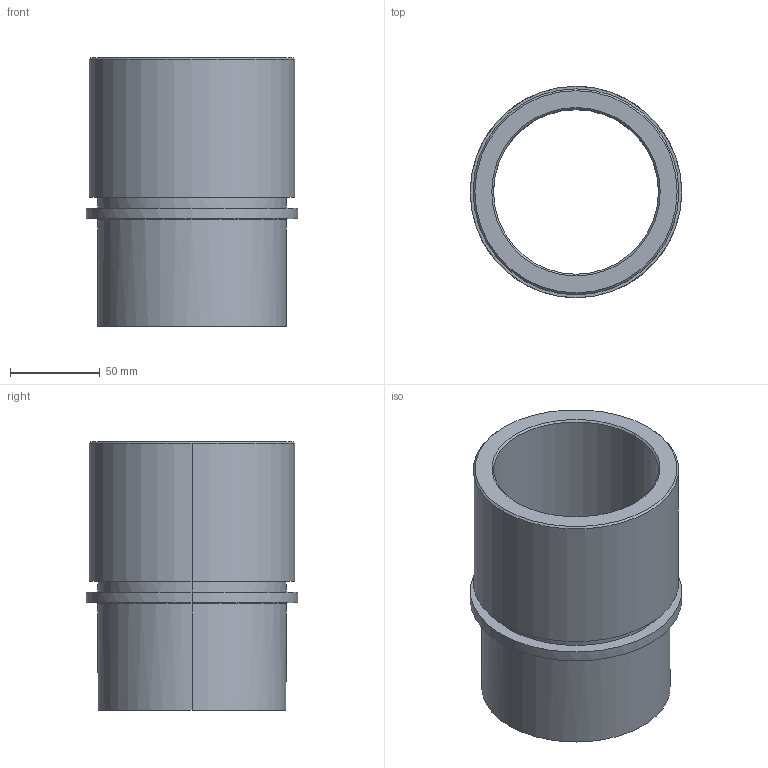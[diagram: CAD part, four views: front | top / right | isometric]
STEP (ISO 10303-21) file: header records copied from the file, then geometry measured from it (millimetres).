
FILE_DESCRIPTION(('CATIA V5 STEP Exchange'),'2;1');
FILE_NAME('C:\Users\Utente\Desktop\IO LAVORO\3D X SITO CF\X SITO\733\733-80.stp','2021-01-11T17:27:05+00:00',('none'),('none'),'CATIA Version 5 Release 20 GA (IN-10)','CATIA V5 STEP AP203','none');
FILE_SCHEMA(('CONFIG_CONTROL_DESIGN'));
Length unit declared in the file: millimetre
Products named in the file (1): 733-80
Assembly tree (1 placements, depth 2):
  733-80
    #58
Bounding box: 118 x 118 x 150 mm (x, y, z)
Volume: 446580.9 mm3; surface area: 107425.5 mm2
Topology: 1 solids, 1 shells, 25 faces, 50 edges, 30 vertices
Faces by surface type: cylinder 10, cone 6, plane 5, torus 4
Entity records: 851 total; most frequent: CARTESIAN_POINT 282, ORIENTED_EDGE 100, DIRECTION 96, AXIS2_PLACEMENT_3D 53, EDGE_CURVE 50, EDGE_LOOP 30, VERTEX_POINT 30, CIRCLE 26
